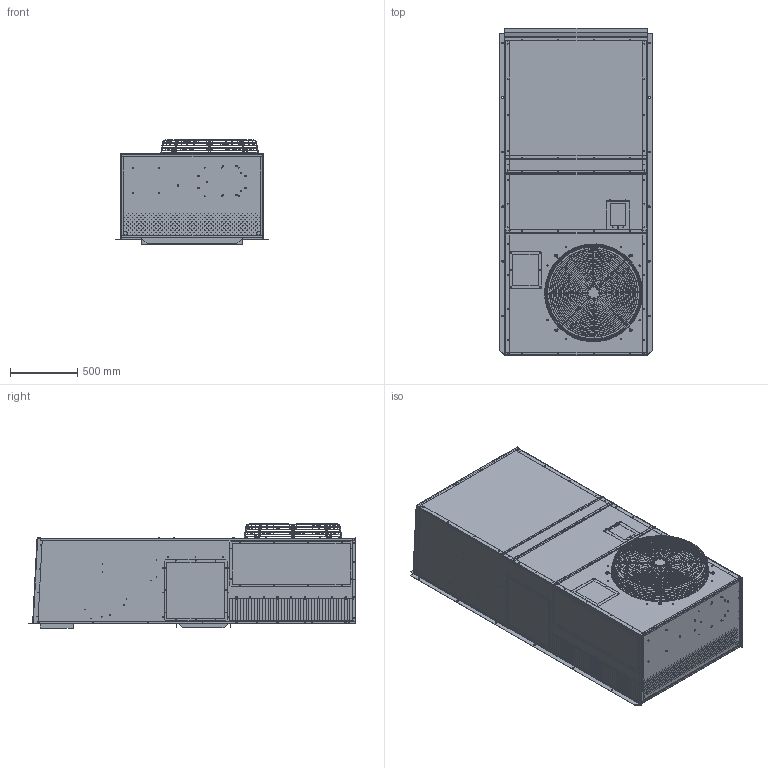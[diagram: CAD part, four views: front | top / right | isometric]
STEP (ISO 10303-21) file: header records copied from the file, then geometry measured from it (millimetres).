
FILE_DESCRIPTION (( 'STEP AP214' ), '1' );
FILE_NAME ('MGA1072A+A+1+D2.STEP', '2022-10-25T20:21:02', ( '' ), ( '' ), 'SwSTEP 2.0', 'SolidWorks 2022', '' );
FILE_SCHEMA (( 'AUTOMOTIVE_DESIGN' ));
Length unit declared in the file: inch
Products named in the file (33): BLOCK-OFF, DIM DWG^MGA1072A-D2; SMM23058X; SMM23059X_SMM23059X-IN; SMM12033X; 90550; SMM13102X; SMM23059X; SMM10031X; 93442; SMM10031X_SMM10031X-SW; SMM23063X; SMM13077X; SMM13077X_SMM13077X-IN; SMM12027X_SMM12027X-IN; SMM13102X_SMM13102X-IN; 90610_99904A102; SD10919; 93438; SMM16066X; SMM22018X; SMM23076X_SMM23061X-IN; SMM23060X_SMM23060X-IN; SMM23062X; 93276; 90740_THREADS; SMM13078X; MGA1072A+A+1+D2; SMM23060X; 81798; SMM12027X; SMM13078X_SMM13078X-IN; SMM22018X_SMM22018X-IN; SMM23076X
Assembly tree (52 placements, depth 3):
  MGA1072A+A+1+D2
    SMM10031X_SMM10031X-SW
      SMM10031X
    SMM12027X_SMM12027X-IN
      SMM12027X
    SMM12033X  x2
    SMM13077X_SMM13077X-IN
      SMM13077X
    SMM13078X_SMM13078X-IN
      SMM13078X
    SMM13102X_SMM13102X-IN  x2
      SMM13102X
    SMM16066X
    SMM22018X_SMM22018X-IN
      SMM22018X
    SMM23059X_SMM23059X-IN
      SMM23059X
    SMM23060X_SMM23060X-IN
      SMM23060X
    SMM23062X
    SMM23063X
    SMM23076X_SMM23061X-IN
      SMM23076X
    SD10919
      SMM23058X
      93276
      90550
      90610_99904A102  x5
      90740_THREADS  x8
      93438  x4
      93442  x4
    81798  x2
    BLOCK-OFF, DIM DWG^MGA1072A-D2
Bounding box: 1134.36 x 2436.97 x 776.84 mm (x, y, z)
Volume: 1536037656.2 mm3; surface area: 28978200 mm2
Topology: 181 solids, 181 shells, 5934 faces, 15445 edges, 9785 vertices
Faces by surface type: plane 2664, cylinder 2456, torus 480, bspline 205, cone 125, sphere 4
Entity records: 169358 total; most frequent: CARTESIAN_POINT 41992, DIRECTION 25370, ORIENTED_EDGE 25102, EDGE_CURVE 12551, AXIS2_PLACEMENT_3D 9169, VERTEX_POINT 7899, VECTOR 7032, LINE 7032
